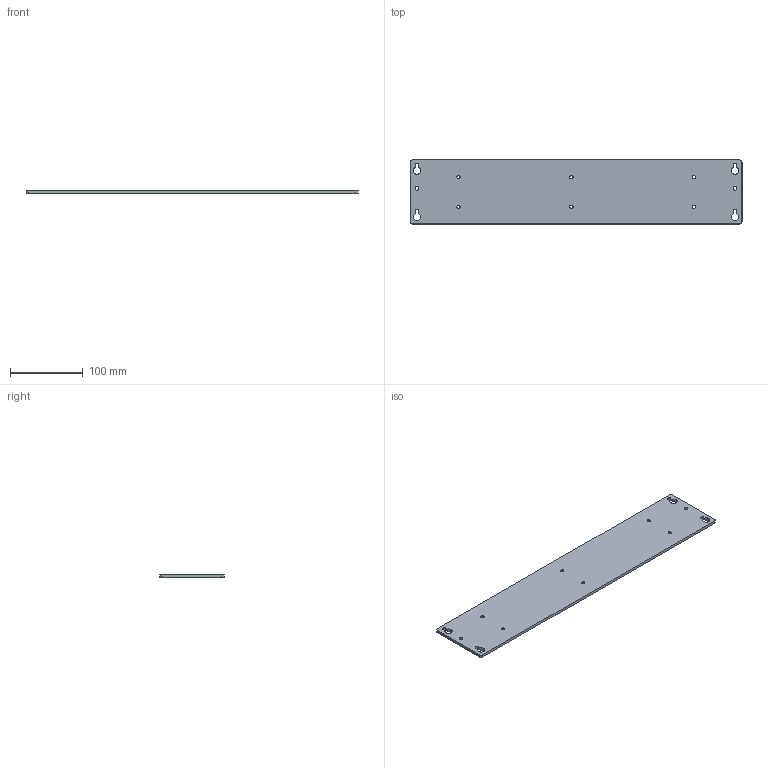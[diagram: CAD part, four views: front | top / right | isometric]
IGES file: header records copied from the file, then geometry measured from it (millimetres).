
Start section:  PTC IGES file: cu_ni-9907.igs
Global section: file name: cu_ni-9907.igs; native system: Creo Parametric by Parametric Technology Corporation; preprocessor: 2014000; author: jbuhisan; organization: Unknown; date: 20140610.165257; units: inch
Bounding box: 457.2 x 88.14 x 4 mm (x, y, z)
Surface area: 84857.5 mm2 (no closed solid volume)
Topology: 0 solids, 0 shells, 54 faces, 288 edges, 288 vertices
Faces by surface type: revolution 40, bspline 14
